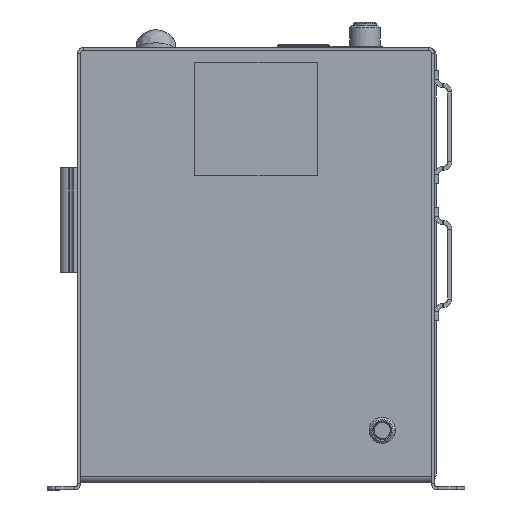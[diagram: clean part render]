
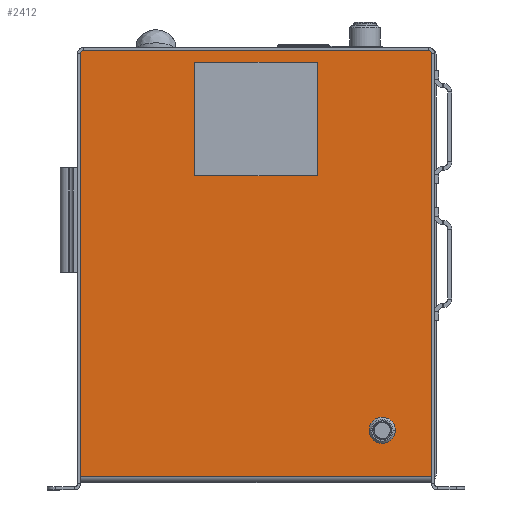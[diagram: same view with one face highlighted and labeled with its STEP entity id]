
A CAD part, front view. The second image highlights one B-rep face of the part: STEP entity #2412.
In plain terms, the highlighted planar face has unit normal (0, -1, 0).
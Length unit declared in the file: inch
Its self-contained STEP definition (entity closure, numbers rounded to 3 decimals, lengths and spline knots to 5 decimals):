
#2116=DIRECTION('',(1.,0.,0.));
#2117=VECTOR('',#2116,10.062);
#2118=CARTESIAN_POINT('',(-5.031,0.2193,0.3944));
#2119=LINE('',#2118,#2117);
#2125=DIRECTION('',(0.,0.,1.));
#2126=VECTOR('',#2125,12.2266);
#2127=CARTESIAN_POINT('',(-5.031,0.2193,0.3944));
#2128=LINE('',#2127,#2126);
#2129=DIRECTION('',(1.,0.,0.));
#2130=VECTOR('',#2129,10.062);
#2131=CARTESIAN_POINT('',(-5.031,0.2193,12.621));
#2132=LINE('',#2131,#2130);
#2133=DIRECTION('',(0.,0.,-1.));
#2134=VECTOR('',#2133,12.2266);
#2135=CARTESIAN_POINT('',(5.031,0.2193,12.621));
#2136=LINE('',#2135,#2134);
#2137=CARTESIAN_POINT('',(-5.031,0.2193,12.621));
#2138=CARTESIAN_POINT('',(5.031,0.2193,12.621));
#2139=VERTEX_POINT('',#2137);
#2140=VERTEX_POINT('',#2138);
#2149=CARTESIAN_POINT('',(-5.031,0.2193,0.3944));
#2150=CARTESIAN_POINT('',(5.031,0.2193,0.3944));
#2151=VERTEX_POINT('',#2149);
#2152=VERTEX_POINT('',#2150);
#2398=CARTESIAN_POINT('',(-5.031,0.2193,0.215));
#2399=DIRECTION('',(0.,-1.,0.));
#2400=DIRECTION('',(1.,0.,0.));
#2401=AXIS2_PLACEMENT_3D('',#2398,#2399,#2400);
#2402=PLANE('',#2401);
#2403=ORIENTED_EDGE('',*,*,#2391,.F.);
#2405=ORIENTED_EDGE('',*,*,#2404,.T.);
#2407=ORIENTED_EDGE('',*,*,#2406,.T.);
#2409=ORIENTED_EDGE('',*,*,#2408,.T.);
#2410=EDGE_LOOP('',(#2403,#2405,#2407,#2409));
#2411=FACE_OUTER_BOUND('',#2410,.F.);
#2412=ADVANCED_FACE('',(#2411),#2402,.T.);
#2391=EDGE_CURVE('',#2151,#2152,#2119,.T.);
#2404=EDGE_CURVE('',#2151,#2139,#2128,.T.);
#2406=EDGE_CURVE('',#2139,#2140,#2132,.T.);
#2408=EDGE_CURVE('',#2140,#2152,#2136,.T.);
